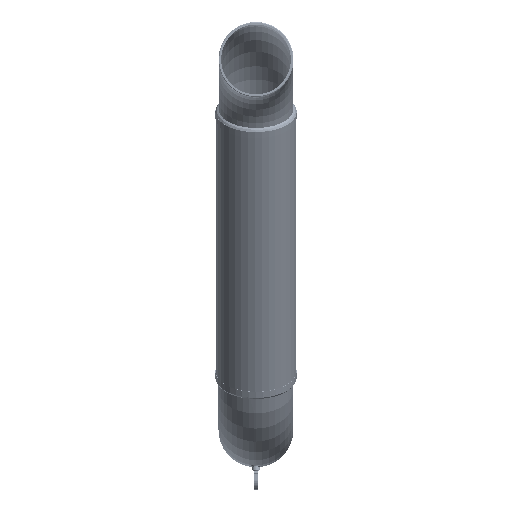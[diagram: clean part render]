
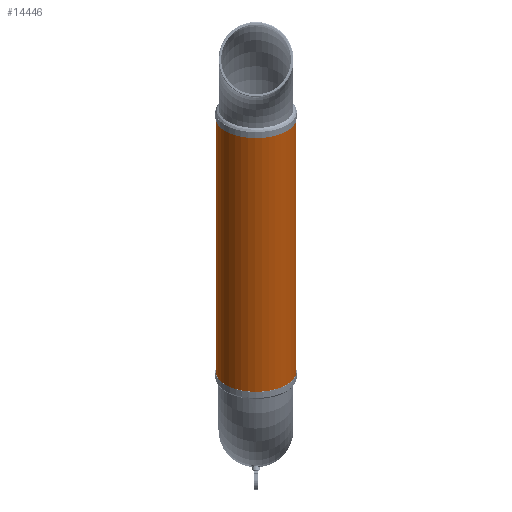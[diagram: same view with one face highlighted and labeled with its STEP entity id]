
A CAD part, front view. The second image highlights one B-rep face of the part: STEP entity #14446.
In plain terms, the highlighted cylindrical face has radius 147.13 mm (diameter 294.259 mm), a full revolution.
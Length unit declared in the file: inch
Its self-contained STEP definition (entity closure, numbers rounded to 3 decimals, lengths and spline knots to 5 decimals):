
#14419=CARTESIAN_POINT('',(0.0,0.0,0.0));
#14420=DIRECTION('',(0.0,0.0,1.0));
#14421=DIRECTION('',(-1.0,0.0,0.0));
#14422=AXIS2_PLACEMENT_3D('',#14419,#14420,#14421);
#14423=CYLINDRICAL_SURFACE('',#14422,5.7925);
#14424=CARTESIAN_POINT('',(5.7925,0.,44.));
#14425=VERTEX_POINT('',#14424);
#14426=CARTESIAN_POINT('',(0.0,0.0,44.));
#14427=DIRECTION('',(0.0,0.0,-1.0));
#14428=DIRECTION('',(-1.0,0.0,0.0));
#14429=AXIS2_PLACEMENT_3D('',#14426,#14427,#14428);
#14430=CIRCLE('',#14429,5.7925);
#14431=EDGE_CURVE('',#14425,#14425,#14430,.T.);
#14432=ORIENTED_EDGE('',*,*,#14431,.T.);
#14433=EDGE_LOOP('',(#14432));
#14434=FACE_OUTER_BOUND('',#14433,.T.);
#14435=CARTESIAN_POINT('',(5.7925,0.,0.0));
#14436=VERTEX_POINT('',#14435);
#14437=CARTESIAN_POINT('',(0.0,0.0,0.0));
#14438=DIRECTION('',(0.0,0.0,-1.0));
#14439=DIRECTION('',(-1.0,0.0,0.0));
#14440=AXIS2_PLACEMENT_3D('',#14437,#14438,#14439);
#14441=CIRCLE('',#14440,5.7925);
#14442=EDGE_CURVE('',#14436,#14436,#14441,.T.);
#14443=ORIENTED_EDGE('',*,*,#14442,.F.);
#14444=EDGE_LOOP('',(#14443));
#14445=FACE_BOUND('',#14444,.T.);
#14446=ADVANCED_FACE('',(#14434,#14445),#14423,.T.);
